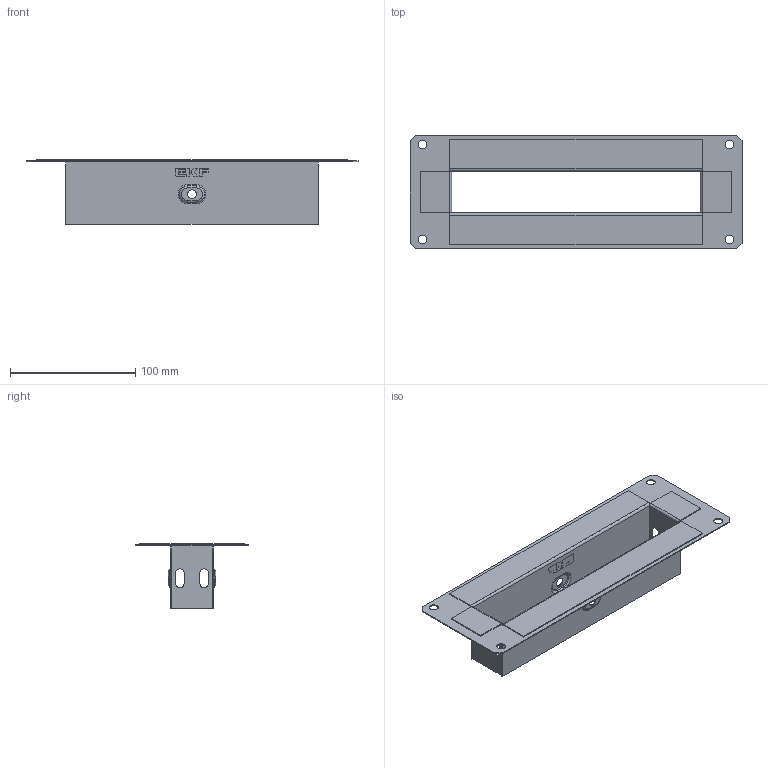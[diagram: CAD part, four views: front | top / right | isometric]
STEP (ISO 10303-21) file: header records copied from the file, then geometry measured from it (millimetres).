
FILE_DESCRIPTION (( 'STEP AP203' ), '1' );
FILE_NAME ('f35200_捘.STEP', '2020-01-23T12:29:17', ( '' ), ( '' ), 'SwSTEP 2.0', 'SolidWorks 2016', '' );
FILE_SCHEMA (( 'CONFIG_CONTROL_DESIGN' ));
Length unit declared in the file: millimetre
Products named in the file (9): f35200_捘; f35200_1; f35200_2; f35200_3
Assembly tree (5 placements, depth 2):
  f35200_捘
    f35200_1
    f35200_2  x2
    f35200_3  x2
  f35200_1
  f35200_2
  f35200_2
  f35200_3
Bounding box: 265 x 90 x 51.5 mm (x, y, z)
Volume: 40885.4 mm3; surface area: 104610.8 mm2
Topology: 5 solids, 5 shells, 306 faces, 792 edges, 512 vertices
Faces by surface type: plane 212, cylinder 60, bspline 18, torus 16
Entity records: 6262 total; most frequent: CARTESIAN_POINT 1358, ORIENTED_EDGE 852, DIRECTION 816, EDGE_CURVE 426, VECTOR 328, LINE 328, VERTEX_POINT 276, AXIS2_PLACEMENT_3D 244
